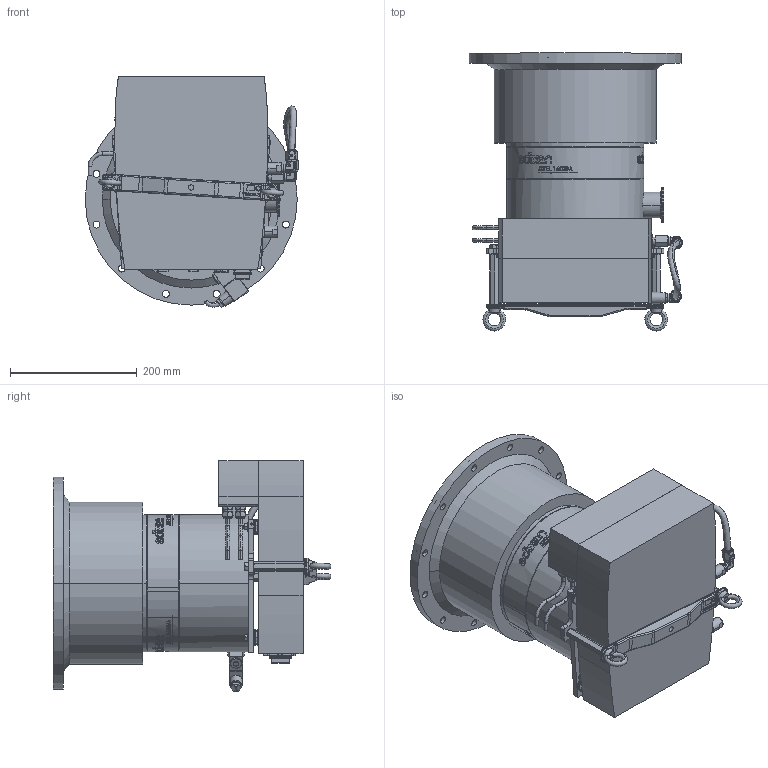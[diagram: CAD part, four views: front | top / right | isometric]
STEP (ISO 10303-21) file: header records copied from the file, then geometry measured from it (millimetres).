
FILE_DESCRIPTION((''),'2;1');
FILE_NAME('ENV-ATH1603M-YY66215A','2011-02-11T',('rcriado'),(''),'PRO/ENGINEER BY PARAMETRIC TECHNOLOGY CORPORATION, 2010230','PRO/ENGINEER BY PARAMETRIC TECHNOLOGY CORPORATION, 2010230','');
FILE_SCHEMA(('CONFIG_CONTROL_DESIGN'));
Products named in the file (1): ENV-ATH1603M-YY66215A
Bounding box: 337.43 x 439.15 x 364.53 mm (x, y, z)
Volume: 20546393.5 mm3; surface area: 869699.7 mm2
Topology: 2 solids, 19 shells, 3605 faces, 9215 edges, 5857 vertices
Faces by surface type: plane 1457, cylinder 1023, cone 505, bspline 484, torus 106, sphere 28, extrusion 2
Entity records: 128381 total; most frequent: CARTESIAN_POINT 45462, ORIENTED_EDGE 18374, DIRECTION 15413, EDGE_CURVE 9187, VERTEX_POINT 5857, AXIS2_PLACEMENT_3D 5633, VECTOR 4147, LINE 4145
